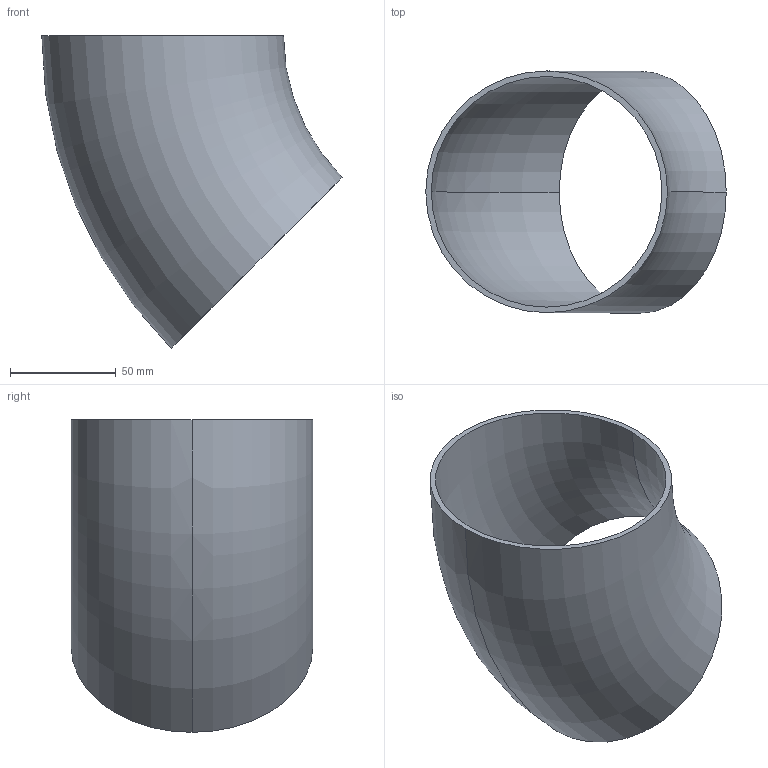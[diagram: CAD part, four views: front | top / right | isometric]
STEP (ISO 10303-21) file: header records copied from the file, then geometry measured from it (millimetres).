
FILE_DESCRIPTION (( 'STEP AP203' ), '1' );
FILE_NAME ('3D_R1650_114.3x2.6_17351560.STEP', '2024-08-03T09:09:23', ( '' ), ( '' ), 'SwSTEP 2.0', 'SolidWorks 2024', '' );
FILE_SCHEMA (( 'CONFIG_CONTROL_DESIGN' ));
Length unit declared in the file: millimetre
Products named in the file (1): 3D_R1650_114.3x2.6_17351560
Bounding box: 142.08 x 114.3 x 147.89 mm (x, y, z)
Volume: 108920.6 mm3; surface area: 85609.8 mm2
Topology: 1 solids, 1 shells, 6 faces, 12 edges, 8 vertices
Faces by surface type: torus 4, plane 2
Entity records: 249 total; most frequent: DIRECTION 38, CARTESIAN_POINT 27, ORIENTED_EDGE 24, AXIS2_PLACEMENT_3D 19, EDGE_CURVE 12, CIRCLE 12, EDGE_LOOP 8, PERSON_AND_ORGANIZATION 8
